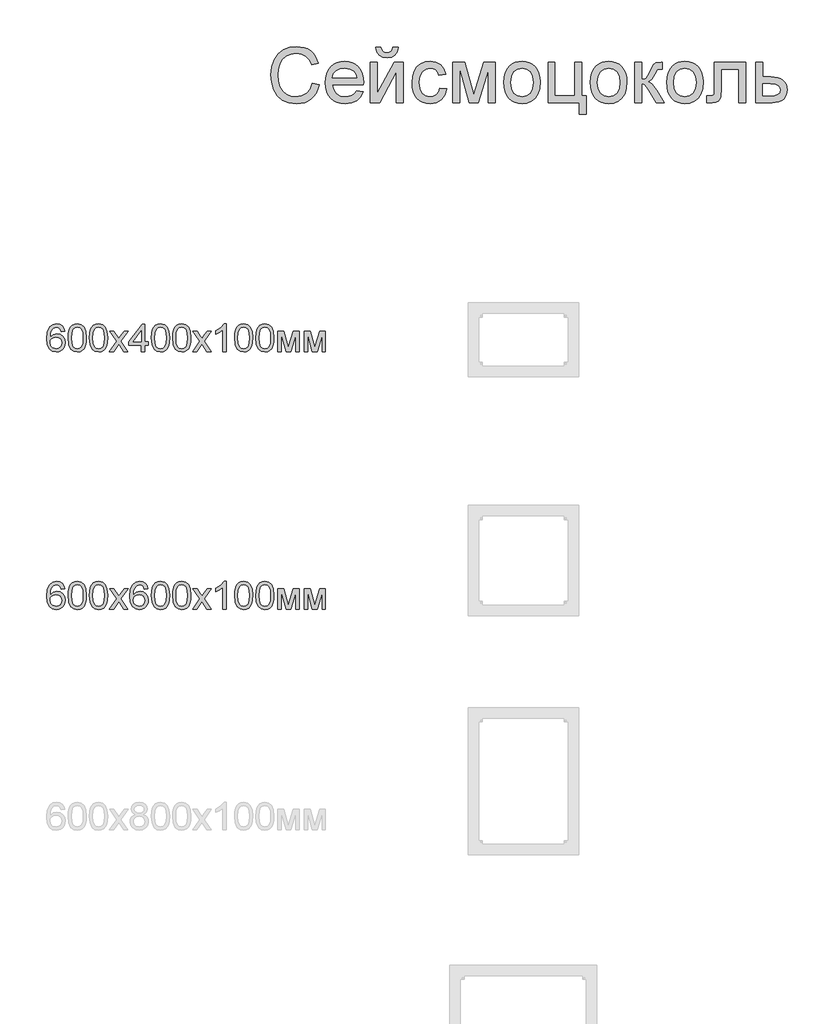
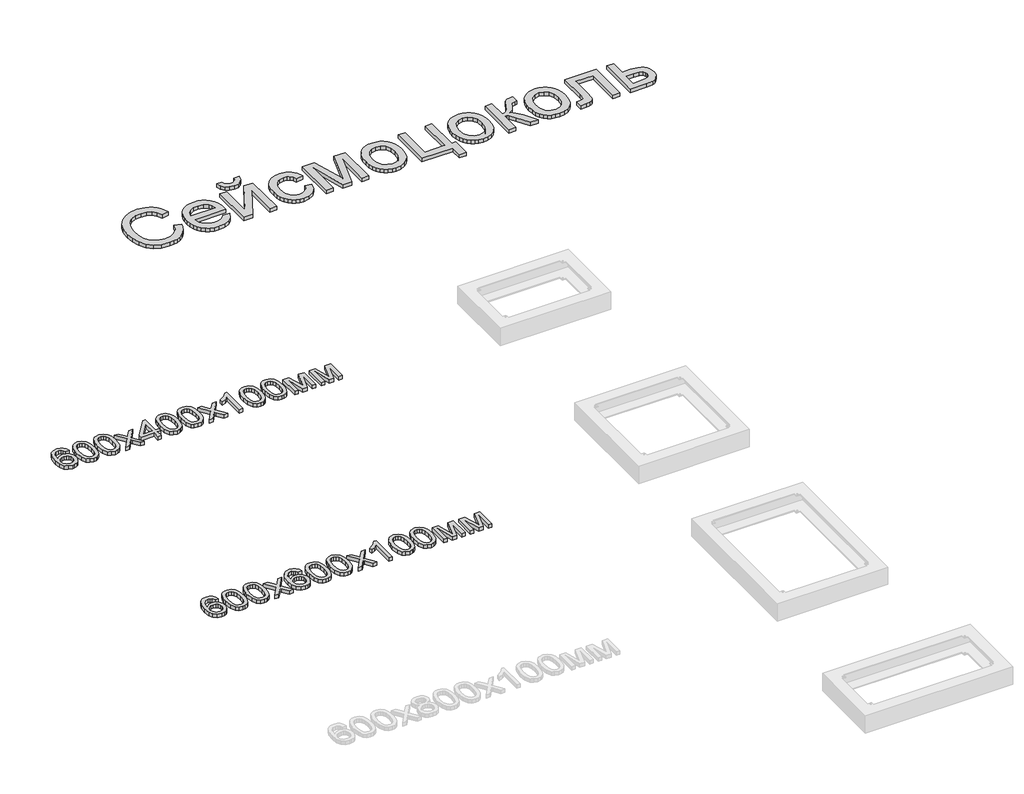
# One storey, part 3 of 3: 3 proxies.
"""IFC4 building model written with IfcOpenShell, lengths in millimetres."""

from ifc_helpers import new_model, si_unit, origin, origin_with_axes, place, context, project, spatial, polyline, outline, extrude, element, save

model = new_model("IFC4")

# Units and contexts
model_context = context("Model", 3, world=origin())
ifc_project = project(units=[si_unit("LENGTHUNIT", "METRE", prefix="MILLI")], contexts=[model_context])

# Site, building, storey
site = spatial("IfcSite", under=ifc_project)
building = spatial("IfcBuilding", under=site)
storey = spatial("IfcBuildingStorey", under=building, Name="Этаж 01", Elevation=0.0)

# Proxies
placement = place(None, origin())
element("IfcBuildingElementProxy", 1, Name="300 мм Arial", ObjectType="300 мм Arial", at=placement, inside=storey, context=model_context, shape_type="SweptSolid", body=[
    extrude(outline(polyline([(-1540.7905459, 4327.4559845), (-1503.1194296, 4317.7438998), (-1510.5736386, 4294.3167145), (-1520.5018539, 4273.8463807), (-1532.9040757, 4256.3328985), (-1547.7803038, 4241.7762678), (-1564.7948461, 4230.3328385), (-1583.6120102, 4222.1589604), (-1604.231796, 4217.2546336), (-1626.6542036, 4215.6198579), (-1670.3493876, 4220.5678708), (-1705.0498568, 4235.4119093), (-1731.647725, 4259.6369387), (-1751.0351062, 4292.7279241), (-1762.8717094, 4331.6314451), (-1766.8172438, 4373.2940811), (-1762.3566746, 4417.2375854), (-1748.974967, 4455.1846132), (-1727.3710968, 4485.9303509), (-1698.2440399, 4508.2699851), (-1663.6999205, 4521.8724219), (-1625.8448632, 4526.4065675), (-1584.5409122, 4520.5388496), (-1566.572176, 4513.2042024), (-1550.392266, 4502.9356962), (-1536.2678967, 4490.004644), (-1524.4657824, 4474.6823589), (-1507.8283192, 4436.8640898), (-1545.4994355, 4427.8877692), (-1558.5592463, 4455.3593571), (-1576.4015231, 4474.2041123), (-1599.246995, 4485.1026165), (-1627.3163912, 4488.7354512), (-1659.6716127, 4484.7071433), (-1686.2510868, 4472.6222198), (-1706.4202172, 4453.7498734), (-1719.5444074, 4429.3592971), (-1726.7456974, 4401.7865416), (-1729.1461275, 4373.3676575), (-1726.304239, 4338.5660207), (-1717.7785738, 4308.4732735), (-1703.247235, 4284.2390471), (-1682.3883259, 4267.0129727), (-1657.3815473, 4256.7214738), (-1630.4066, 4253.2909742), (-1598.9618864, 4257.9630756), (-1572.7594913, 4271.9793796), (-1552.976637, 4295.1927335), (-1540.7905459, 4327.4559845)])), origin_with_axes(), (0.0, 0.0, 1.0), 20.0),
    extrude(outline(polyline([(-1301.0786379, 4286.253201), (-1264.1432856, 4281.5443115), (-1277.4514167, 4253.7140385), (-1298.6874049, 4232.9103117), (-1327.3730035, 4219.9424714), (-1363.0299659, 4215.6198579), (-1386.4042681, 4217.4845598), (-1407.2309876, 4223.0786654), (-1425.5101242, 4232.4021747), (-1441.241678, 4245.4550877), (-1453.8922201, 4261.874121), (-1462.9283217, 4281.2959911), (-1468.3499826, 4303.720698), (-1470.1572029, 4329.1482416), (-1468.3315885, 4355.4380087), (-1462.8547453, 4378.6099759), (-1453.7266732, 4398.6641432), (-1440.9473724, 4415.6005105), (-1425.2572053, 4429.0557945), (-1407.3965345, 4438.6667116), (-1387.3653598, 4444.4332619), (-1365.1636814, 4446.3554453), (-1343.6770737, 4444.4378604), (-1324.2460065, 4438.6851057), (-1306.87048, 4429.0971812), (-1291.5504942, 4415.6740869), (-1279.0448056, 4398.7745078), (-1270.1121709, 4378.7571287), (-1264.7525901, 4355.6219497), (-1262.9660632, 4329.3689708), (-1263.1867924, 4319.2154278), (-1432.4860866, 4319.2154278), (-1425.9653782, 4291.0172728), (-1410.817837, 4270.2871224), (-1388.9564495, 4257.5400113), (-1362.2942019, 4253.2909742), (-1342.2446331, 4255.2591429), (-1325.3588496, 4261.1636489), (-1311.6368511, 4271.3723743), (-1301.0786379, 4286.253201)]), holes=[polyline([(-1432.4860866, 4356.8865441), (-1300.6371795, 4356.8865441), (-1305.7323451, 4376.78896), (-1315.7203413, 4391.0259932), (-1337.6828964, 4404.2697451), (-1365.3108342, 4408.684329), (-1390.7038889, 4405.1618589), (-1411.7007538, 4394.5944486), (-1426.296472, 4378.1225323), (-1432.4860866, 4356.8865441)])]), origin_with_axes(), (0.0, 0.0, 1.0), 20.0),
    extrude(outline(polyline([(-1225.2949469, 4441.6465558), (-1187.6238306, 4441.6465558), (-1187.6238306, 4272.8622964), (-1095.0647206, 4441.6465558), (-1046.3571444, 4441.6465558), (-1046.3571444, 4220.3287475), (-1084.0282607, 4220.3287475), (-1084.0282607, 4388.0829373), (-1175.9987595, 4220.3287475), (-1225.2949469, 4220.3287475), (-1225.2949469, 4441.6465558)])), origin_with_axes(), (0.0, 0.0, 1.0), 20.0),
    extrude(outline(polyline([(-1102.8638189, 4521.6976779), (-1074.6104816, 4521.6976779), (-1080.6897316, 4497.5738161), (-1092.8942168, 4479.7959187), (-1110.6721142, 4468.8422323), (-1133.4716009, 4465.1910035), (-1158.211665, 4468.8146411), (-1177.3967111, 4479.6855541), (-1190.5117042, 4497.4358603), (-1197.0416096, 4521.6976779), (-1168.7882724, 4521.6976779), (-1164.8151469, 4509.2908576), (-1158.1932709, 4500.4708868), (-1148.8858565, 4495.2009772), (-1136.8561152, 4493.4443407), (-1123.2812696, 4495.1457949), (-1113.4588203, 4500.2501576), (-1106.8369444, 4509.0149461), (-1102.8638189, 4521.6976779)])), origin_with_axes(), (0.0, 0.0, 1.0), 20.0),
    extrude(outline(polyline([(-848.5837838, 4300.3798696), (-810.9126675, 4295.6709801), (-821.4156985, 4262.1661274), (-841.1525675, 4236.8466491), (-868.2654705, 4220.9265557), (-900.8966035, 4215.6198579), (-922.0245264, 4217.4707642), (-940.9681498, 4223.0234831), (-957.727474, 4232.2780145), (-972.3024988, 4245.2343585), (-984.1000145, 4261.6487933), (-992.5268115, 4281.277597), (-997.5828896, 4304.1207697), (-999.268249, 4330.1783112), (-996.3895724, 4363.701558), (-987.7535426, 4392.7550386), (-973.2222038, 4416.2167129), (-952.6576002, 4432.9645407), (-928.0554918, 4443.0077192), (-901.4116383, 4446.3554453), (-869.5806487, 4441.7569204), (-844.1324117, 4427.9613456), (-825.8762677, 4405.7044848), (-815.621557, 4375.7221022), (-853.2926733, 4371.0132127), (-860.1260814, 4387.4483408), (-870.7670681, 4399.2297617), (-884.6270223, 4406.3206872), (-901.1173327, 4408.684329), (-925.4619237, 4404.0306218), (-944.7849255, 4390.0695), (-957.3940809, 4366.0468058), (-961.5971327, 4331.2083808), (-957.4860514, 4295.9009063), (-945.1528075, 4271.7954386), (-926.1792936, 4257.9170903), (-902.1474023, 4253.2909742), (-882.6404595, 4256.1788479), (-866.6467898, 4264.8424689), (-855.0125217, 4279.5025664), (-848.5837838, 4300.3798696)])), origin_with_axes(), (0.0, 0.0, 1.0), 20.0),
    extrude(outline(polyline([(-777.9504407, 4441.6465558), (-713.1296332, 4441.6465558), (-663.1712582, 4264.4745869), (-609.3133341, 4441.6465558), (-547.2148534, 4441.6465558), (-547.2148534, 4220.3287475), (-584.8859697, 4220.3287475), (-584.8859697, 4398.5307859), (-639.0381994, 4220.3287475), (-688.4815395, 4220.3287475), (-740.2793244, 4407.0656482), (-740.2793244, 4220.3287475), (-777.9504407, 4220.3287475), (-777.9504407, 4441.6465558)])), origin_with_axes(), (0.0, 0.0, 1.0), 20.0),
    extrude(outline(polyline([(-500.125958, 4330.9876516), (-498.0888114, 4359.6502576), (-491.9773718, 4384.348935), (-481.791639, 4405.083684), (-467.5316132, 4421.8545044), (-453.1750183, 4432.5736661), (-437.3285014, 4440.2302101), (-419.9920624, 4444.8241365), (-401.1657013, 4446.3554453), (-380.3826678, 4444.4907434), (-361.5907956, 4438.8966379), (-344.7900848, 4429.5731285), (-329.9805352, 4416.5202155), (-317.8933124, 4400.1793571), (-309.2595818, 4380.9920118), (-304.0793435, 4358.9581796), (-302.3525974, 4334.0778604), (-305.4060179, 4296.020468), (-314.5662796, 4267.0497609), (-329.566668, 4245.3539202), (-350.1404685, 4229.1211272), (-374.5770301, 4218.9951752), (-401.1657013, 4215.6198579), (-422.2522374, 4217.477662), (-441.2188535, 4223.0510742), (-458.0655496, 4232.3400946), (-472.7923257, 4245.3447231), (-484.7507898, 4261.8442306), (-493.2925499, 4281.6178879), (-498.417606, 4304.6656949), (-500.125958, 4330.9876516)]), holes=[polyline([(-462.4548417, 4331.061228), (-458.09544, 4296.9677641), (-445.0172351, 4272.6783554), (-425.3355484, 4258.1378195), (-401.1657013, 4253.2909742), (-377.1062188, 4258.1654107), (-357.4613202, 4272.78872), (-344.3831153, 4297.4000255), (-340.0237137, 4332.2384504), (-344.4107065, 4365.3386329), (-357.5716848, 4389.2969479), (-377.2441745, 4403.8374837), (-401.1657013, 4408.684329), (-425.3355484, 4403.8558778), (-445.0172351, 4389.3705243), (-458.09544, 4365.1362978), (-462.4548417, 4331.061228)])]), origin_with_axes(), (0.0, 0.0, 1.0), 20.0),
    extrude(outline(polyline([(-259.9725915, 4441.6465558), (-222.3014752, 4441.6465558), (-222.3014752, 4257.9998638), (-113.9970158, 4257.9998638), (-113.9970158, 4441.6465558), (-76.3258995, 4441.6465558), (-76.3258995, 4257.9998638), (-52.7814518, 4257.9998638), (-52.7814518, 4159.1131835), (-90.4525681, 4159.1131835), (-90.4525681, 4220.3287475), (-259.9725915, 4220.3287475), (-259.9725915, 4441.6465558)])), origin_with_axes(), (0.0, 0.0, 1.0), 20.0),
    extrude(outline(polyline([(-29.2370041, 4330.9876516), (-27.1998576, 4359.6502576), (-21.088418, 4384.348935), (-10.9026852, 4405.083684), (3.3573406, 4421.8545044), (17.7139355, 4432.5736661), (33.5604524, 4440.2302101), (50.8968915, 4444.8241365), (69.7232526, 4446.3554453), (90.506286, 4444.4907434), (109.2981582, 4438.8966379), (126.0988691, 4429.5731285), (140.9084186, 4416.5202155), (152.9956414, 4400.1793571), (161.629372, 4380.9920118), (166.8096103, 4358.9581796), (168.5363565, 4334.0778604), (165.4829359, 4296.020468), (156.3226742, 4267.0497609), (141.3222859, 4245.3539202), (120.7484853, 4229.1211272), (96.3119238, 4218.9951752), (69.7232526, 4215.6198579), (48.6367164, 4217.477662), (29.6701003, 4223.0510742), (12.8234042, 4232.3400946), (-1.9033719, 4245.3447231), (-13.861836, 4261.8442306), (-22.4035961, 4281.6178879), (-27.5286521, 4304.6656949), (-29.2370041, 4330.9876516)]), holes=[polyline([(8.4341122, 4331.061228), (12.7935138, 4296.9677641), (25.8717187, 4272.6783554), (45.5534055, 4258.1378195), (69.7232526, 4253.2909742), (93.782735, 4258.1654107), (113.4276336, 4272.78872), (126.5058385, 4297.4000255), (130.8652402, 4332.2384504), (126.4782474, 4365.3386329), (113.317269, 4389.2969479), (93.6447793, 4403.8374837), (69.7232526, 4408.684329), (45.5534055, 4403.8558778), (25.8717187, 4389.3705243), (12.7935138, 4365.1362978), (8.4341122, 4331.061228)])]), origin_with_axes(), (0.0, 0.0, 1.0), 20.0),
    extrude(outline(polyline([(210.9163623, 4441.6465558), (248.5874786, 4441.6465558), (248.5874786, 4347.468765), (263.9097637, 4349.1610222), (273.8241835, 4354.2377937), (282.5981691, 4367.4815455), (294.4991516, 4393.6747436), (311.6792408, 4427.7038282), (326.835979, 4438.7770762), (354.3903404, 4441.6465558), (361.6008275, 4441.6465558), (361.6008275, 4403.7547103), (351.4472845, 4403.9754395), (333.0531847, 4400.0023139), (320.1037385, 4375.2070674), (304.9102121, 4348.38847), (283.6098445, 4335.2550828), (295.5476153, 4329.9529835), (307.3750214, 4320.5949853), (330.6987399, 4289.7112918), (371.0186066, 4220.3287475), (328.1971424, 4220.3287475), (288.6866161, 4288.2397638), (268.8209883, 4316.9713476), (259.531968, 4322.1860749), (248.5874786, 4323.9243173), (248.5874786, 4220.3287475), (210.9163623, 4220.3287475), (210.9163623, 4441.6465558)])), origin_with_axes(), (0.0, 0.0, 1.0), 20.0),
    extrude(outline(polyline([(385.1452752, 4330.9876516), (387.1824218, 4359.6502576), (393.2938614, 4384.348935), (403.4795942, 4405.083684), (417.73962, 4421.8545044), (432.0962149, 4432.5736661), (447.9427318, 4440.2302101), (465.2791708, 4444.8241365), (484.1055319, 4446.3554453), (504.8885654, 4444.4907434), (523.6804376, 4438.8966379), (540.4811484, 4429.5731285), (555.290698, 4416.5202155), (567.3779208, 4400.1793571), (576.0116514, 4380.9920118), (581.1918897, 4358.9581796), (582.9186358, 4334.0778604), (579.8652153, 4296.020468), (570.7049536, 4267.0497609), (555.7045652, 4245.3539202), (535.1307647, 4229.1211272), (510.6942031, 4218.9951752), (484.1055319, 4215.6198579), (463.0189958, 4217.477662), (444.0523797, 4223.0510742), (427.2056836, 4232.3400946), (412.4789075, 4245.3447231), (400.5204434, 4261.8442306), (391.9786833, 4281.6178879), (386.8536272, 4304.6656949), (385.1452752, 4330.9876516)]), holes=[polyline([(422.8163915, 4331.061228), (427.1757932, 4296.9677641), (440.2539981, 4272.6783554), (459.9356848, 4258.1378195), (484.1055319, 4253.2909742), (508.1650144, 4258.1654107), (527.8099129, 4272.78872), (540.8881179, 4297.4000255), (545.2475195, 4332.2384504), (540.8605267, 4365.3386329), (527.6995483, 4389.2969479), (508.0270587, 4403.8374837), (484.1055319, 4408.684329), (459.9356848, 4403.8558778), (440.2539981, 4389.3705243), (427.1757932, 4365.1362978), (422.8163915, 4331.061228)])]), origin_with_axes(), (0.0, 0.0, 1.0), 20.0),
    extrude(outline(polyline([(644.1341998, 4441.6465558), (813.6542232, 4441.6465558), (813.6542232, 4220.5494767), (775.9831069, 4220.5494767), (775.9831069, 4403.9754395), (681.8053161, 4403.9754395), (681.8053161, 4298.3933069), (679.2669304, 4249.6857307), (674.5120556, 4238.6584679), (665.3242027, 4229.1211272), (651.3814751, 4222.5268424), (632.361976, 4220.3287475), (601.754194, 4222.2417338), (601.754194, 4257.9998638), (618.6031894, 4257.9998638), (635.6361257, 4260.3175203), (642.4419426, 4267.6751603), (644.1341998, 4300.5270224), (644.1341998, 4441.6465558)])), origin_with_axes(), (0.0, 0.0, 1.0), 20.0),
    extrude(outline(polyline([(870.1608977, 4441.6465558), (907.832014, 4441.6465558), (907.832014, 4361.5954336), (951.2420894, 4361.5954336), (988.8764175, 4356.877347), (1004.0239587, 4350.9797388), (1016.7250845, 4342.7230873), (1026.768263, 4332.392501), (1033.9419619, 4320.2730885), (1039.680921, 4290.667785), (1034.7972876, 4263.7112318), (1020.1463871, 4240.9669274), (1008.9144899, 4231.9377237), (994.7533324, 4225.4882925), (957.6432361, 4220.3287475), (870.1608977, 4220.3287475), (870.1608977, 4441.6465558)]), holes=[polyline([(907.832014, 4257.9998638), (943.0015327, 4257.9998638), (970.2891797, 4259.9772295), (988.4349591, 4265.9093267), (998.6160933, 4276.0352786), (1002.0098047, 4290.5942086), (999.4990101, 4302.8998613), (991.9666263, 4313.7707742), (975.8258037, 4321.3859315), (947.489693, 4323.9243173), (907.832014, 4323.9243173), (907.832014, 4257.9998638)])]), origin_with_axes(), (0.0, 0.0, 1.0), 20.0),
])
element("IfcBuildingElementProxy", 2, Name="150 мм Arial", ObjectType="150 мм Arial", at=placement, inside=storey, context=model_context, shape_type="SweptSolid", body=[
    extrude(outline(polyline([(-2887.0834509, 2979.0815713), (-2905.9190091, 2976.7271266), (-2913.0559198, 2992.4356878), (-2921.5999791, 2998.3126026), (-2931.9282662, 3000.2715743), (-2948.9244143, 2995.7098375), (-2961.7818901, 2978.5849307), (-2965.6860377, 2964.5548311), (-2967.1345731, 2945.0156986), (-2950.524701, 2960.0436781), (-2929.9417034, 2964.9549027), (-2912.540885, 2961.5979795), (-2897.9359698, 2951.5272099), (-2888.0307471, 2936.1405455), (-2884.7290062, 2916.8359378), (-2886.2833076, 2903.3484641), (-2890.9462119, 2890.8450748), (-2898.3314429, 2880.2408763), (-2908.0527247, 2872.450975), (-2919.6685987, 2867.6639106), (-2932.7376065, 2866.0682224), (-2954.1069519, 2870.2988654), (-2971.1260927, 2882.9907942), (-2982.2591216, 2905.3948077), (-2985.9701312, 2938.7617047), (-2981.8498529, 2976.2764711), (-2969.4890179, 3001.9270433), (-2952.6124313, 3014.8121101), (-2930.7510438, 3019.1071324), (-2914.2239451, 3016.449185), (-2900.9893904, 3008.4753428), (-2891.7187641, 2995.8110051), (-2887.0834509, 2979.0815713)]), holes=[polyline([(-2967.1345731, 2917.1302434), (-2962.7751714, 2900.8146769), (-2951.1868886, 2888.9688766), (-2934.2091345, 2884.9037806), (-2921.7793216, 2887.009905), (-2912.0074561, 2893.3282783), (-2905.6752873, 2903.2610921), (-2903.5645643, 2916.2105384), (-2905.6476961, 2928.6403513), (-2911.8970915, 2938.1179112), (-2921.8345039, 2944.1189862), (-2934.9816867, 2946.1193446), (-2947.3931055, 2944.1189862), (-2957.7719763, 2938.1179112), (-2964.7939239, 2928.8702775), (-2967.1345731, 2917.1302434)])]), origin_with_axes(), (0.0, 0.0, 1.0), 20.0),
    extrude(outline(polyline([(-2868.2478928, 2942.5508892), (-2866.8637368, 2966.6701525), (-2862.7112688, 2985.9057824), (-2855.8318754, 3000.5520843), (-2846.2669436, 3010.9033639), (-2833.9474953, 3017.0561903), (-2818.8045526, 3019.1071324), (-2796.8052093, 3014.2510901), (-2781.6116829, 3000.2531802), (-2772.782515, 2977.9595313), (-2769.3612125, 2942.5508892), (-2770.7315729, 2918.5695817), (-2774.8426542, 2899.3799371), (-2781.6806608, 2884.7198396), (-2791.2317971, 2874.3271732), (-2803.5788366, 2868.1329601), (-2818.8045526, 2866.0682224), (-2838.3758748, 2869.6550719), (-2853.2383074, 2880.4156202), (-2864.4954964, 2905.9006455), (-2868.2478928, 2942.5508892)]), holes=[polyline([(-2849.4123346, 2942.5876774), (-2847.2050427, 2912.9593812), (-2840.5831667, 2895.8114817), (-2830.7239293, 2887.6307059), (-2818.8045526, 2884.9037806), (-2806.885176, 2887.6399029), (-2797.0259385, 2895.8482699), (-2790.4040626, 2913.0053665), (-2788.1967706, 2942.5876774), (-2790.3304862, 2971.5491875), (-2796.7316329, 2988.8304442), (-2806.5724763, 2997.4112918), (-2819.0252818, 3000.2715743), (-2830.8158998, 2997.7515826), (-2840.2888612, 2990.1916076), (-2847.1314663, 2971.834296), (-2849.4123346, 2942.5876774)])]), origin_with_axes(), (0.0, 0.0, 1.0), 20.0),
    extrude(outline(polyline([(-2752.8800991, 2942.5508892), (-2751.4959431, 2966.6701525), (-2747.3434751, 2985.9057824), (-2740.4640818, 3000.5520843), (-2730.8991499, 3010.9033639), (-2718.5797016, 3017.0561903), (-2703.4367589, 3019.1071324), (-2681.4374156, 3014.2510901), (-2666.2438892, 3000.2531802), (-2657.4147213, 2977.9595313), (-2653.9934188, 2942.5508892), (-2655.3637792, 2918.5695817), (-2659.4748605, 2899.3799371), (-2666.3128671, 2884.7198396), (-2675.8640034, 2874.3271732), (-2688.2110429, 2868.1329601), (-2703.4367589, 2866.0682224), (-2723.0080811, 2869.6550719), (-2737.8705137, 2880.4156202), (-2749.1277027, 2905.9006455), (-2752.8800991, 2942.5508892)]), holes=[polyline([(-2734.0445409, 2942.5876774), (-2731.837249, 2912.9593812), (-2725.2153731, 2895.8114817), (-2715.3561356, 2887.6307059), (-2703.4367589, 2884.9037806), (-2691.5173823, 2887.6399029), (-2681.6581448, 2895.8482699), (-2675.0362689, 2913.0053665), (-2672.8289769, 2942.5876774), (-2674.9626925, 2971.5491875), (-2681.3638392, 2988.8304442), (-2691.2046826, 2997.4112918), (-2703.6574881, 3000.2715743), (-2715.4481061, 2997.7515826), (-2724.9210675, 2990.1916076), (-2731.7636726, 2971.834296), (-2734.0445409, 2942.5876774)])]), origin_with_axes(), (0.0, 0.0, 1.0), 20.0),
    extrude(outline(polyline([(-2644.5756397, 2868.4226672), (-2604.3293494, 2924.0464249), (-2642.2211949, 2979.0815713), (-2619.559664, 2979.0815713), (-2601.2759289, 2952.5940677), (-2592.7410666, 2940.0860799), (-2585.3466385, 2950.3131993), (-2564.5245176, 2979.0815713), (-2541.8629867, 2979.0815713), (-2581.6678185, 2924.0464249), (-2543.3345146, 2868.4226672), (-2565.9960455, 2868.4226672), (-2589.0622466, 2901.8631406), (-2593.2928896, 2907.9699817), (-2621.9141088, 2868.4226672), (-2644.5756397, 2868.4226672)])), origin_with_axes(), (0.0, 0.0, 1.0), 20.0),
    extrude(outline(polyline([(-2470.3467268, 2868.4226672), (-2470.3467268, 2903.7393387), (-2538.6256251, 2903.7393387), (-2538.6256251, 2922.5748969), (-2465.6378373, 3016.7526877), (-2451.5111686, 3016.7526877), (-2451.5111686, 2922.5748969), (-2432.6756105, 2922.5748969), (-2432.6756105, 2903.7393387), (-2451.5111686, 2903.7393387), (-2451.5111686, 2868.4226672), (-2470.3467268, 2868.4226672)]), holes=[polyline([(-2470.3467268, 2922.5748969), (-2470.3467268, 2980.7738285), (-2515.4490594, 2922.5748969), (-2470.3467268, 2922.5748969)])]), origin_with_axes(), (0.0, 0.0, 1.0), 20.0),
    extrude(outline(polyline([(-2416.1944971, 2942.5508892), (-2414.8103411, 2966.6701525), (-2410.6578731, 2985.9057824), (-2403.7784798, 3000.5520843), (-2394.2135479, 3010.9033639), (-2381.8940996, 3017.0561903), (-2366.751157, 3019.1071324), (-2344.7518136, 3014.2510901), (-2329.5582872, 3000.2531802), (-2320.7291194, 2977.9595313), (-2317.3078168, 2942.5508892), (-2318.6781772, 2918.5695817), (-2322.7892585, 2899.3799371), (-2329.6272651, 2884.7198396), (-2339.1784014, 2874.3271732), (-2351.5254409, 2868.1329601), (-2366.751157, 2866.0682224), (-2386.3224791, 2869.6550719), (-2401.1849117, 2880.4156202), (-2412.4421008, 2905.9006455), (-2416.1944971, 2942.5508892)]), holes=[polyline([(-2397.358939, 2942.5876774), (-2395.151647, 2912.9593812), (-2388.5297711, 2895.8114817), (-2378.6705336, 2887.6307059), (-2366.751157, 2884.9037806), (-2354.8317803, 2887.6399029), (-2344.9725428, 2895.8482699), (-2338.3506669, 2913.0053665), (-2336.143375, 2942.5876774), (-2338.2770905, 2971.5491875), (-2344.6782372, 2988.8304442), (-2354.5190806, 2997.4112918), (-2366.9718862, 3000.2715743), (-2378.7625041, 2997.7515826), (-2388.2354655, 2990.1916076), (-2395.0780706, 2971.834296), (-2397.358939, 2942.5876774)])]), origin_with_axes(), (0.0, 0.0, 1.0), 20.0),
    extrude(outline(polyline([(-2300.8267034, 2942.5508892), (-2299.4425474, 2966.6701525), (-2295.2900794, 2985.9057824), (-2288.4106861, 3000.5520843), (-2278.8457542, 3010.9033639), (-2266.5263059, 3017.0561903), (-2251.3833633, 3019.1071324), (-2229.38402, 3014.2510901), (-2214.1904936, 3000.2531802), (-2205.3613257, 2977.9595313), (-2201.9400231, 2942.5508892), (-2203.3103836, 2918.5695817), (-2207.4214648, 2899.3799371), (-2214.2594714, 2884.7198396), (-2223.8106077, 2874.3271732), (-2236.1576472, 2868.1329601), (-2251.3833633, 2866.0682224), (-2270.9546854, 2869.6550719), (-2285.817118, 2880.4156202), (-2297.0743071, 2905.9006455), (-2300.8267034, 2942.5508892)]), holes=[polyline([(-2281.9911453, 2942.5876774), (-2279.7838533, 2912.9593812), (-2273.1619774, 2895.8114817), (-2263.3027399, 2887.6307059), (-2251.3833633, 2884.9037806), (-2239.4639866, 2887.6399029), (-2229.6047492, 2895.8482699), (-2222.9828732, 2913.0053665), (-2220.7755813, 2942.5876774), (-2222.9092968, 2971.5491875), (-2229.3104436, 2988.8304442), (-2239.1512869, 2997.4112918), (-2251.6040925, 3000.2715743), (-2263.3947104, 2997.7515826), (-2272.8676718, 2990.1916076), (-2279.7102769, 2971.834296), (-2281.9911453, 2942.5876774)])]), origin_with_axes(), (0.0, 0.0, 1.0), 20.0),
    extrude(outline(polyline([(-2192.522244, 2868.4226672), (-2152.2759538, 2924.0464249), (-2190.1677993, 2979.0815713), (-2167.5062684, 2979.0815713), (-2149.2225332, 2952.5940677), (-2140.6876709, 2940.0860799), (-2133.2932428, 2950.3131993), (-2112.4711219, 2979.0815713), (-2089.809591, 2979.0815713), (-2129.6144229, 2924.0464249), (-2091.281119, 2868.4226672), (-2113.9426499, 2868.4226672), (-2137.008851, 2901.8631406), (-2141.2394939, 2907.9699817), (-2169.8607131, 2868.4226672), (-2192.522244, 2868.4226672)])), origin_with_axes(), (0.0, 0.0, 1.0), 20.0),
    extrude(outline(polyline([(-2008.8755521, 2868.4226672), (-2027.7111102, 2868.4226672), (-2027.7111102, 2985.8506001), (-2045.553387, 2973.1402771), (-2065.3822265, 2963.6305276), (-2065.3822265, 2981.4360161), (-2037.7726828, 2999.0575637), (-2021.0156579, 3019.1071324), (-2008.8755521, 3019.1071324), (-2008.8755521, 2868.4226672)])), origin_with_axes(), (0.0, 0.0, 1.0), 20.0),
    extrude(outline(polyline([(-1964.1411014, 2942.5508892), (-1962.7569454, 2966.6701525), (-1958.6044774, 2985.9057824), (-1951.7250841, 3000.5520843), (-1942.1601522, 3010.9033639), (-1929.8407039, 3017.0561903), (-1914.6977613, 3019.1071324), (-1892.698418, 3014.2510901), (-1877.5048916, 3000.2531802), (-1868.6757237, 2977.9595313), (-1865.2544211, 2942.5508892), (-1866.6247816, 2918.5695817), (-1870.7358629, 2899.3799371), (-1877.5738694, 2884.7198396), (-1887.1250057, 2874.3271732), (-1899.4720452, 2868.1329601), (-1914.6977613, 2866.0682224), (-1934.2690834, 2869.6550719), (-1949.131516, 2880.4156202), (-1960.3887051, 2905.9006455), (-1964.1411014, 2942.5508892)]), holes=[polyline([(-1945.3055433, 2942.5876774), (-1943.0982513, 2912.9593812), (-1936.4763754, 2895.8114817), (-1926.6171379, 2887.6307059), (-1914.6977613, 2884.9037806), (-1902.7783846, 2887.6399029), (-1892.9191472, 2895.8482699), (-1886.2972713, 2913.0053665), (-1884.0899793, 2942.5876774), (-1886.2236949, 2971.5491875), (-1892.6248416, 2988.8304442), (-1902.4656849, 2997.4112918), (-1914.9184905, 3000.2715743), (-1926.7091084, 2997.7515826), (-1936.1820698, 2990.1916076), (-1943.0246749, 2971.834296), (-1945.3055433, 2942.5876774)])]), origin_with_axes(), (0.0, 0.0, 1.0), 20.0),
    extrude(outline(polyline([(-1848.7733078, 2942.5508892), (-1847.3891517, 2966.6701525), (-1843.2366837, 2985.9057824), (-1836.3572904, 3000.5520843), (-1826.7923585, 3010.9033639), (-1814.4729102, 3017.0561903), (-1799.3299676, 3019.1071324), (-1777.3306243, 3014.2510901), (-1762.1370979, 3000.2531802), (-1753.30793, 2977.9595313), (-1749.8866274, 2942.5508892), (-1751.2569879, 2918.5695817), (-1755.3680692, 2899.3799371), (-1762.2060758, 2884.7198396), (-1771.7572121, 2874.3271732), (-1784.1042515, 2868.1329601), (-1799.3299676, 2866.0682224), (-1818.9012897, 2869.6550719), (-1833.7637223, 2880.4156202), (-1845.0209114, 2905.9006455), (-1848.7733078, 2942.5508892)]), holes=[polyline([(-1829.9377496, 2942.5876774), (-1827.7304576, 2912.9593812), (-1821.1085817, 2895.8114817), (-1811.2493442, 2887.6307059), (-1799.3299676, 2884.9037806), (-1787.410591, 2887.6399029), (-1777.5513535, 2895.8482699), (-1770.9294776, 2913.0053665), (-1768.7221856, 2942.5876774), (-1770.8559012, 2971.5491875), (-1777.2570479, 2988.8304442), (-1787.0978913, 2997.4112918), (-1799.5506968, 3000.2715743), (-1811.3413147, 2997.7515826), (-1820.8142761, 2990.1916076), (-1827.6568812, 2971.834296), (-1829.9377496, 2942.5876774)])]), origin_with_axes(), (0.0, 0.0, 1.0), 20.0),
    extrude(outline(polyline([(-1728.6966245, 2979.0815713), (-1696.2862208, 2979.0815713), (-1671.3070333, 2890.4955869), (-1644.3780712, 2979.0815713), (-1613.3288308, 2979.0815713), (-1613.3288308, 2868.4226672), (-1632.164389, 2868.4226672), (-1632.164389, 2957.5236864), (-1659.2405038, 2868.4226672), (-1683.9621739, 2868.4226672), (-1709.8610664, 2961.7911176), (-1709.8610664, 2868.4226672), (-1728.6966245, 2868.4226672), (-1728.6966245, 2979.0815713)])), origin_with_axes(), (0.0, 0.0, 1.0), 20.0),
    extrude(outline(polyline([(-1585.0754936, 2979.0815713), (-1552.6650898, 2979.0815713), (-1527.6859024, 2890.4955869), (-1500.7569403, 2979.0815713), (-1469.7076999, 2979.0815713), (-1469.7076999, 2868.4226672), (-1488.5432581, 2868.4226672), (-1488.5432581, 2957.5236864), (-1515.6193729, 2868.4226672), (-1540.341043, 2868.4226672), (-1566.2399355, 2961.7911176), (-1566.2399355, 2868.4226672), (-1585.0754936, 2868.4226672), (-1585.0754936, 2979.0815713)])), origin_with_axes(), (0.0, 0.0, 1.0), 20.0),
])
element("IfcBuildingElementProxy", 3, Name="150 мм Arial", ObjectType="150 мм Arial", at=placement, inside=storey, context=model_context, shape_type="SweptSolid", body=[
    extrude(outline(polyline([(-2887.0834509, 1579.0815713), (-2905.9190091, 1576.7271266), (-2913.0559198, 1592.4356878), (-2921.5999791, 1598.3126026), (-2931.9282662, 1600.2715743), (-2948.9244143, 1595.7098375), (-2961.7818901, 1578.5849307), (-2965.6860377, 1564.5548311), (-2967.1345731, 1545.0156986), (-2950.524701, 1560.0436781), (-2929.9417034, 1564.9549027), (-2912.540885, 1561.5979795), (-2897.9359698, 1551.5272099), (-2888.0307471, 1536.1405455), (-2884.7290062, 1516.8359378), (-2886.2833076, 1503.3484641), (-2890.9462119, 1490.8450748), (-2898.3314429, 1480.2408763), (-2908.0527247, 1472.450975), (-2919.6685987, 1467.6639106), (-2932.7376065, 1466.0682224), (-2954.1069519, 1470.2988654), (-2971.1260927, 1482.9907942), (-2982.2591216, 1505.3948077), (-2985.9701312, 1538.7617047), (-2981.8498529, 1576.2764711), (-2969.4890179, 1601.9270433), (-2952.6124313, 1614.8121101), (-2930.7510438, 1619.1071324), (-2914.2239451, 1616.449185), (-2900.9893904, 1608.4753428), (-2891.7187641, 1595.8110051), (-2887.0834509, 1579.0815713)]), holes=[polyline([(-2967.1345731, 1517.1302434), (-2962.7751714, 1500.8146769), (-2951.1868886, 1488.9688766), (-2934.2091345, 1484.9037806), (-2921.7793216, 1487.009905), (-2912.0074561, 1493.3282783), (-2905.6752873, 1503.2610921), (-2903.5645643, 1516.2105384), (-2905.6476961, 1528.6403513), (-2911.8970915, 1538.1179112), (-2921.8345039, 1544.1189862), (-2934.9816867, 1546.1193446), (-2947.3931055, 1544.1189862), (-2957.7719763, 1538.1179112), (-2964.7939239, 1528.8702775), (-2967.1345731, 1517.1302434)])]), origin_with_axes(), (0.0, 0.0, 1.0), 20.0),
    extrude(outline(polyline([(-2868.2478928, 1542.5508892), (-2866.8637368, 1566.6701525), (-2862.7112688, 1585.9057824), (-2855.8318754, 1600.5520843), (-2846.2669436, 1610.9033639), (-2833.9474953, 1617.0561903), (-2818.8045526, 1619.1071324), (-2796.8052093, 1614.2510901), (-2781.6116829, 1600.2531802), (-2772.782515, 1577.9595313), (-2769.3612125, 1542.5508892), (-2770.7315729, 1518.5695817), (-2774.8426542, 1499.3799371), (-2781.6806608, 1484.7198396), (-2791.2317971, 1474.3271732), (-2803.5788366, 1468.1329601), (-2818.8045526, 1466.0682224), (-2838.3758748, 1469.6550719), (-2853.2383074, 1480.4156202), (-2864.4954964, 1505.9006455), (-2868.2478928, 1542.5508892)]), holes=[polyline([(-2849.4123346, 1542.5876774), (-2847.2050427, 1512.9593812), (-2840.5831667, 1495.8114817), (-2830.7239293, 1487.6307059), (-2818.8045526, 1484.9037806), (-2806.885176, 1487.6399029), (-2797.0259385, 1495.8482699), (-2790.4040626, 1513.0053665), (-2788.1967706, 1542.5876774), (-2790.3304862, 1571.5491875), (-2796.7316329, 1588.8304442), (-2806.5724763, 1597.4112918), (-2819.0252818, 1600.2715743), (-2830.8158998, 1597.7515826), (-2840.2888612, 1590.1916076), (-2847.1314663, 1571.834296), (-2849.4123346, 1542.5876774)])]), origin_with_axes(), (0.0, 0.0, 1.0), 20.0),
    extrude(outline(polyline([(-2752.8800991, 1542.5508892), (-2751.4959431, 1566.6701525), (-2747.3434751, 1585.9057824), (-2740.4640818, 1600.5520843), (-2730.8991499, 1610.9033639), (-2718.5797016, 1617.0561903), (-2703.4367589, 1619.1071324), (-2681.4374156, 1614.2510901), (-2666.2438892, 1600.2531802), (-2657.4147213, 1577.9595313), (-2653.9934188, 1542.5508892), (-2655.3637792, 1518.5695817), (-2659.4748605, 1499.3799371), (-2666.3128671, 1484.7198396), (-2675.8640034, 1474.3271732), (-2688.2110429, 1468.1329601), (-2703.4367589, 1466.0682224), (-2723.0080811, 1469.6550719), (-2737.8705137, 1480.4156202), (-2749.1277027, 1505.9006455), (-2752.8800991, 1542.5508892)]), holes=[polyline([(-2734.0445409, 1542.5876774), (-2731.837249, 1512.9593812), (-2725.2153731, 1495.8114817), (-2715.3561356, 1487.6307059), (-2703.4367589, 1484.9037806), (-2691.5173823, 1487.6399029), (-2681.6581448, 1495.8482699), (-2675.0362689, 1513.0053665), (-2672.8289769, 1542.5876774), (-2674.9626925, 1571.5491875), (-2681.3638392, 1588.8304442), (-2691.2046826, 1597.4112918), (-2703.6574881, 1600.2715743), (-2715.4481061, 1597.7515826), (-2724.9210675, 1590.1916076), (-2731.7636726, 1571.834296), (-2734.0445409, 1542.5876774)])]), origin_with_axes(), (0.0, 0.0, 1.0), 20.0),
    extrude(outline(polyline([(-2644.5756397, 1468.4226672), (-2604.3293494, 1524.0464249), (-2642.2211949, 1579.0815713), (-2619.559664, 1579.0815713), (-2601.2759289, 1552.5940677), (-2592.7410666, 1540.0860799), (-2585.3466385, 1550.3131993), (-2564.5245176, 1579.0815713), (-2541.8629867, 1579.0815713), (-2581.6678185, 1524.0464249), (-2543.3345146, 1468.4226672), (-2565.9960455, 1468.4226672), (-2589.0622466, 1501.8631406), (-2593.2928896, 1507.9699817), (-2621.9141088, 1468.4226672), (-2644.5756397, 1468.4226672)])), origin_with_axes(), (0.0, 0.0, 1.0), 20.0),
    extrude(outline(polyline([(-2435.0300553, 1579.0815713), (-2453.8656134, 1576.7271266), (-2461.0025241, 1592.4356878), (-2469.5465835, 1598.3126026), (-2479.8748705, 1600.2715743), (-2496.8710187, 1595.7098375), (-2509.7284944, 1578.5849307), (-2513.6326421, 1564.5548311), (-2515.0811774, 1545.0156986), (-2498.4713053, 1560.0436781), (-2477.8883077, 1564.9549027), (-2460.4874893, 1561.5979795), (-2445.8825741, 1551.5272099), (-2435.9773514, 1536.1405455), (-2432.6756105, 1516.8359378), (-2434.2299119, 1503.3484641), (-2438.8928162, 1490.8450748), (-2446.2780473, 1480.2408763), (-2455.999329, 1472.450975), (-2467.615203, 1467.6639106), (-2480.6842109, 1466.0682224), (-2502.0535563, 1470.2988654), (-2519.0726971, 1482.9907942), (-2530.2057259, 1505.3948077), (-2533.9167356, 1538.7617047), (-2529.7964572, 1576.2764711), (-2517.4356222, 1601.9270433), (-2500.5590357, 1614.8121101), (-2478.6976481, 1619.1071324), (-2462.1705495, 1616.449185), (-2448.9359947, 1608.4753428), (-2439.6653684, 1595.8110051), (-2435.0300553, 1579.0815713)]), holes=[polyline([(-2515.0811774, 1517.1302434), (-2510.7217758, 1500.8146769), (-2499.1334929, 1488.9688766), (-2482.1557388, 1484.9037806), (-2469.7259259, 1487.009905), (-2459.9540604, 1493.3282783), (-2453.6218916, 1503.2610921), (-2451.5111686, 1516.2105384), (-2453.5943004, 1528.6403513), (-2459.8436958, 1538.1179112), (-2469.7811082, 1544.1189862), (-2482.928291, 1546.1193446), (-2495.3397098, 1544.1189862), (-2505.7185806, 1538.1179112), (-2512.7405282, 1528.8702775), (-2515.0811774, 1517.1302434)])]), origin_with_axes(), (0.0, 0.0, 1.0), 20.0),
    extrude(outline(polyline([(-2416.1944971, 1542.5508892), (-2414.8103411, 1566.6701525), (-2410.6578731, 1585.9057824), (-2403.7784798, 1600.5520843), (-2394.2135479, 1610.9033639), (-2381.8940996, 1617.0561903), (-2366.751157, 1619.1071324), (-2344.7518136, 1614.2510901), (-2329.5582872, 1600.2531802), (-2320.7291194, 1577.9595313), (-2317.3078168, 1542.5508892), (-2318.6781772, 1518.5695817), (-2322.7892585, 1499.3799371), (-2329.6272651, 1484.7198396), (-2339.1784014, 1474.3271732), (-2351.5254409, 1468.1329601), (-2366.751157, 1466.0682224), (-2386.3224791, 1469.6550719), (-2401.1849117, 1480.4156202), (-2412.4421008, 1505.9006455), (-2416.1944971, 1542.5508892)]), holes=[polyline([(-2397.358939, 1542.5876774), (-2395.151647, 1512.9593812), (-2388.5297711, 1495.8114817), (-2378.6705336, 1487.6307059), (-2366.751157, 1484.9037806), (-2354.8317803, 1487.6399029), (-2344.9725428, 1495.8482699), (-2338.3506669, 1513.0053665), (-2336.143375, 1542.5876774), (-2338.2770905, 1571.5491875), (-2344.6782372, 1588.8304442), (-2354.5190806, 1597.4112918), (-2366.9718862, 1600.2715743), (-2378.7625041, 1597.7515826), (-2388.2354655, 1590.1916076), (-2395.0780706, 1571.834296), (-2397.358939, 1542.5876774)])]), origin_with_axes(), (0.0, 0.0, 1.0), 20.0),
    extrude(outline(polyline([(-2300.8267034, 1542.5508892), (-2299.4425474, 1566.6701525), (-2295.2900794, 1585.9057824), (-2288.4106861, 1600.5520843), (-2278.8457542, 1610.9033639), (-2266.5263059, 1617.0561903), (-2251.3833633, 1619.1071324), (-2229.38402, 1614.2510901), (-2214.1904936, 1600.2531802), (-2205.3613257, 1577.9595313), (-2201.9400231, 1542.5508892), (-2203.3103836, 1518.5695817), (-2207.4214648, 1499.3799371), (-2214.2594714, 1484.7198396), (-2223.8106077, 1474.3271732), (-2236.1576472, 1468.1329601), (-2251.3833633, 1466.0682224), (-2270.9546854, 1469.6550719), (-2285.817118, 1480.4156202), (-2297.0743071, 1505.9006455), (-2300.8267034, 1542.5508892)]), holes=[polyline([(-2281.9911453, 1542.5876774), (-2279.7838533, 1512.9593812), (-2273.1619774, 1495.8114817), (-2263.3027399, 1487.6307059), (-2251.3833633, 1484.9037806), (-2239.4639866, 1487.6399029), (-2229.6047492, 1495.8482699), (-2222.9828732, 1513.0053665), (-2220.7755813, 1542.5876774), (-2222.9092968, 1571.5491875), (-2229.3104436, 1588.8304442), (-2239.1512869, 1597.4112918), (-2251.6040925, 1600.2715743), (-2263.3947104, 1597.7515826), (-2272.8676718, 1590.1916076), (-2279.7102769, 1571.834296), (-2281.9911453, 1542.5876774)])]), origin_with_axes(), (0.0, 0.0, 1.0), 20.0),
    extrude(outline(polyline([(-2192.522244, 1468.4226672), (-2152.2759538, 1524.0464249), (-2190.1677993, 1579.0815713), (-2167.5062684, 1579.0815713), (-2149.2225332, 1552.5940677), (-2140.6876709, 1540.0860799), (-2133.2932428, 1550.3131993), (-2112.4711219, 1579.0815713), (-2089.809591, 1579.0815713), (-2129.6144229, 1524.0464249), (-2091.281119, 1468.4226672), (-2113.9426499, 1468.4226672), (-2137.008851, 1501.8631406), (-2141.2394939, 1507.9699817), (-2169.8607131, 1468.4226672), (-2192.522244, 1468.4226672)])), origin_with_axes(), (0.0, 0.0, 1.0), 20.0),
    extrude(outline(polyline([(-2008.8755521, 1468.4226672), (-2027.7111102, 1468.4226672), (-2027.7111102, 1585.8506001), (-2045.553387, 1573.1402771), (-2065.3822265, 1563.6305276), (-2065.3822265, 1581.4360161), (-2037.7726828, 1599.0575637), (-2021.0156579, 1619.1071324), (-2008.8755521, 1619.1071324), (-2008.8755521, 1468.4226672)])), origin_with_axes(), (0.0, 0.0, 1.0), 20.0),
    extrude(outline(polyline([(-1964.1411014, 1542.5508892), (-1962.7569454, 1566.6701525), (-1958.6044774, 1585.9057824), (-1951.7250841, 1600.5520843), (-1942.1601522, 1610.9033639), (-1929.8407039, 1617.0561903), (-1914.6977613, 1619.1071324), (-1892.698418, 1614.2510901), (-1877.5048916, 1600.2531802), (-1868.6757237, 1577.9595313), (-1865.2544211, 1542.5508892), (-1866.6247816, 1518.5695817), (-1870.7358629, 1499.3799371), (-1877.5738694, 1484.7198396), (-1887.1250057, 1474.3271732), (-1899.4720452, 1468.1329601), (-1914.6977613, 1466.0682224), (-1934.2690834, 1469.6550719), (-1949.131516, 1480.4156202), (-1960.3887051, 1505.9006455), (-1964.1411014, 1542.5508892)]), holes=[polyline([(-1945.3055433, 1542.5876774), (-1943.0982513, 1512.9593812), (-1936.4763754, 1495.8114817), (-1926.6171379, 1487.6307059), (-1914.6977613, 1484.9037806), (-1902.7783846, 1487.6399029), (-1892.9191472, 1495.8482699), (-1886.2972713, 1513.0053665), (-1884.0899793, 1542.5876774), (-1886.2236949, 1571.5491875), (-1892.6248416, 1588.8304442), (-1902.4656849, 1597.4112918), (-1914.9184905, 1600.2715743), (-1926.7091084, 1597.7515826), (-1936.1820698, 1590.1916076), (-1943.0246749, 1571.834296), (-1945.3055433, 1542.5876774)])]), origin_with_axes(), (0.0, 0.0, 1.0), 20.0),
    extrude(outline(polyline([(-1848.7733078, 1542.5508892), (-1847.3891517, 1566.6701525), (-1843.2366837, 1585.9057824), (-1836.3572904, 1600.5520843), (-1826.7923585, 1610.9033639), (-1814.4729102, 1617.0561903), (-1799.3299676, 1619.1071324), (-1777.3306243, 1614.2510901), (-1762.1370979, 1600.2531802), (-1753.30793, 1577.9595313), (-1749.8866274, 1542.5508892), (-1751.2569879, 1518.5695817), (-1755.3680692, 1499.3799371), (-1762.2060758, 1484.7198396), (-1771.7572121, 1474.3271732), (-1784.1042515, 1468.1329601), (-1799.3299676, 1466.0682224), (-1818.9012897, 1469.6550719), (-1833.7637223, 1480.4156202), (-1845.0209114, 1505.9006455), (-1848.7733078, 1542.5508892)]), holes=[polyline([(-1829.9377496, 1542.5876774), (-1827.7304576, 1512.9593812), (-1821.1085817, 1495.8114817), (-1811.2493442, 1487.6307059), (-1799.3299676, 1484.9037806), (-1787.410591, 1487.6399029), (-1777.5513535, 1495.8482699), (-1770.9294776, 1513.0053665), (-1768.7221856, 1542.5876774), (-1770.8559012, 1571.5491875), (-1777.2570479, 1588.8304442), (-1787.0978913, 1597.4112918), (-1799.5506968, 1600.2715743), (-1811.3413147, 1597.7515826), (-1820.8142761, 1590.1916076), (-1827.6568812, 1571.834296), (-1829.9377496, 1542.5876774)])]), origin_with_axes(), (0.0, 0.0, 1.0), 20.0),
    extrude(outline(polyline([(-1728.6966245, 1579.0815713), (-1696.2862208, 1579.0815713), (-1671.3070333, 1490.4955869), (-1644.3780712, 1579.0815713), (-1613.3288308, 1579.0815713), (-1613.3288308, 1468.4226672), (-1632.164389, 1468.4226672), (-1632.164389, 1557.5236864), (-1659.2405038, 1468.4226672), (-1683.9621739, 1468.4226672), (-1709.8610664, 1561.7911176), (-1709.8610664, 1468.4226672), (-1728.6966245, 1468.4226672), (-1728.6966245, 1579.0815713)])), origin_with_axes(), (0.0, 0.0, 1.0), 20.0),
    extrude(outline(polyline([(-1585.0754936, 1579.0815713), (-1552.6650898, 1579.0815713), (-1527.6859024, 1490.4955869), (-1500.7569403, 1579.0815713), (-1469.7076999, 1579.0815713), (-1469.7076999, 1468.4226672), (-1488.5432581, 1468.4226672), (-1488.5432581, 1557.5236864), (-1515.6193729, 1468.4226672), (-1540.341043, 1468.4226672), (-1566.2399355, 1561.7911176), (-1566.2399355, 1468.4226672), (-1585.0754936, 1468.4226672), (-1585.0754936, 1579.0815713)])), origin_with_axes(), (0.0, 0.0, 1.0), 20.0),
])

save(model, "model.ifc")
